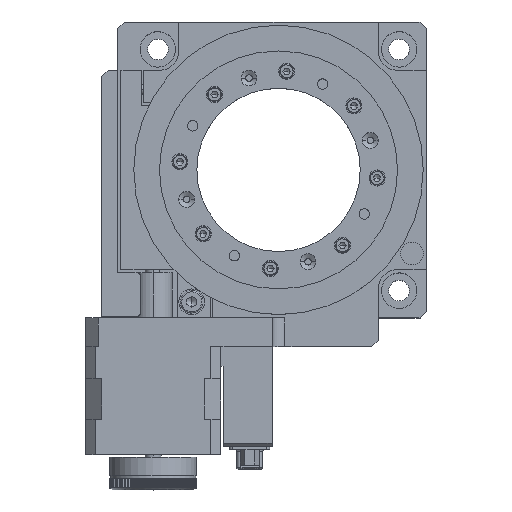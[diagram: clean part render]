
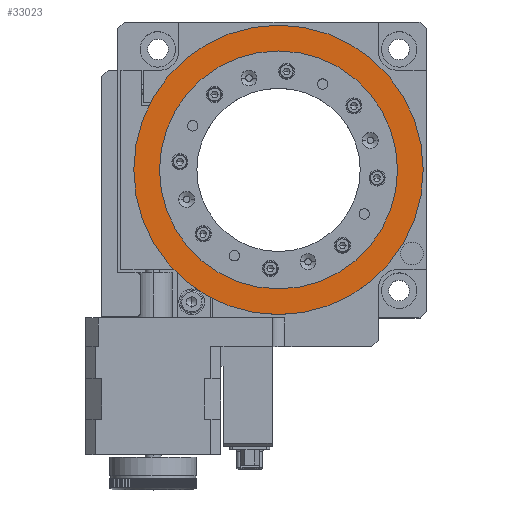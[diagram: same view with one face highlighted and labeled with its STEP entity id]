
A CAD part, top view. The second image highlights one B-rep face of the part: STEP entity #33023.
In plain terms, the highlighted planar face has unit normal (0, 0, 1).
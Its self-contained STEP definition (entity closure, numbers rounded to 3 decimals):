
#1923 = CARTESIAN_POINT ( 'NONE',  ( 13., 46., 32. ) ) ;
#1925 = CIRCLE ( 'NONE', #1950, 37. ) ;
#1926 = CARTESIAN_POINT ( 'NONE',  ( 50., 46., 32. ) ) ;
#1948 = DIRECTION ( 'NONE',  ( -1., 0., 0. ) ) ;
#1949 = DIRECTION ( 'NONE',  ( 0., 0., 1. ) ) ;
#1950 = AXIS2_PLACEMENT_3D ( 'NONE', #1926, #1949, #1948 ) ;
#2044 = CARTESIAN_POINT ( 'NONE',  ( 87., 46., 32. ) ) ;
#3402 = DIRECTION ( 'NONE',  ( -1., 0., 0. ) ) ;
#3403 = DIRECTION ( 'NONE',  ( 0., 0., 1. ) ) ;
#3404 = CARTESIAN_POINT ( 'NONE',  ( 50., 46., 32. ) ) ;
#3405 = AXIS2_PLACEMENT_3D ( 'NONE', #3404, #3403, #3402 ) ;
#3406 = CIRCLE ( 'NONE', #3405, 45. ) ;
#3483 = CARTESIAN_POINT ( 'NONE',  ( 95., 46., 32. ) ) ;
#3513 = CARTESIAN_POINT ( 'NONE',  ( 5., 46., 32. ) ) ;
#19065 = EDGE_CURVE ( 'NONE', #34877, #34859, #49702, .T. ) ;
#33023 = ADVANCED_FACE ( 'NONE', ( #76613, #76612 ), #76610, .T. ) ;
#33024 = EDGE_LOOP ( 'NONE', ( #33025, #33027 ) ) ;
#33025 = ORIENTED_EDGE ( 'NONE', *, *, #33026, .F. ) ;
#33026 = EDGE_CURVE ( 'NONE', #33936, #34013, #76674, .T. ) ;
#33027 = ORIENTED_EDGE ( 'NONE', *, *, #33935, .F. ) ;
#33028 = EDGE_LOOP ( 'NONE', ( #33029, #33032 ) ) ;
#33029 = ORIENTED_EDGE ( 'NONE', *, *, #19065, .T. ) ;
#33032 = ORIENTED_EDGE ( 'NONE', *, *, #34808, .T. ) ;
#33935 = EDGE_CURVE ( 'NONE', #34013, #33936, #1925, .T. ) ;
#33936 = VERTEX_POINT ( 'NONE', #1923 ) ;
#34013 = VERTEX_POINT ( 'NONE', #2044 ) ;
#34808 = EDGE_CURVE ( 'NONE', #34859, #34877, #3406, .T. ) ;
#34859 = VERTEX_POINT ( 'NONE', #3483 ) ;
#34877 = VERTEX_POINT ( 'NONE', #3513 ) ;
#49693 = DIRECTION ( 'NONE',  ( -1., 0., 0. ) ) ;
#49694 = DIRECTION ( 'NONE',  ( 0., 0., 1. ) ) ;
#49695 = CARTESIAN_POINT ( 'NONE',  ( 50., 46., 32. ) ) ;
#49696 = AXIS2_PLACEMENT_3D ( 'NONE', #49695, #49694, #49693 ) ;
#49702 = CIRCLE ( 'NONE', #49696, 45. ) ;
#76606 = DIRECTION ( 'NONE',  ( 0., -1., 0. ) ) ;
#76607 = DIRECTION ( 'NONE',  ( 0., 0., 1. ) ) ;
#76608 = CARTESIAN_POINT ( 'NONE',  ( 50., 46., 32. ) ) ;
#76609 = AXIS2_PLACEMENT_3D ( 'NONE', #76608, #76607, #76606 ) ;
#76610 = PLANE ( 'NONE',  #76609 ) ;
#76612 = FACE_OUTER_BOUND ( 'NONE', #33028, .T. ) ;
#76613 = FACE_BOUND ( 'NONE', #33024, .T. ) ;
#76669 = DIRECTION ( 'NONE',  ( -1., 0., 0. ) ) ;
#76670 = DIRECTION ( 'NONE',  ( 0., 0., 1. ) ) ;
#76671 = CARTESIAN_POINT ( 'NONE',  ( 50., 46., 32. ) ) ;
#76672 = AXIS2_PLACEMENT_3D ( 'NONE', #76671, #76670, #76669 ) ;
#76674 = CIRCLE ( 'NONE', #76672, 37. ) ;
